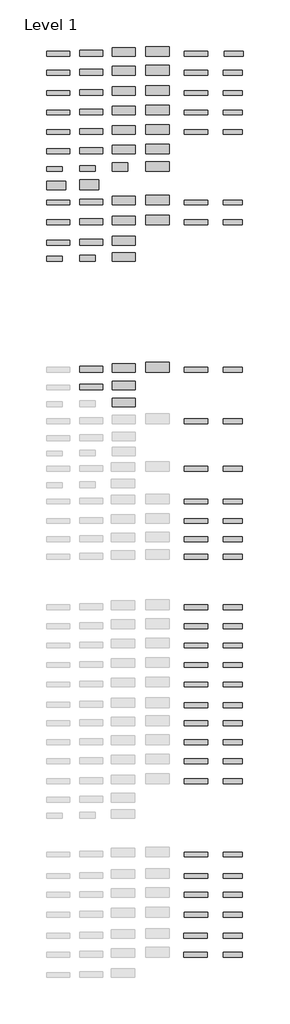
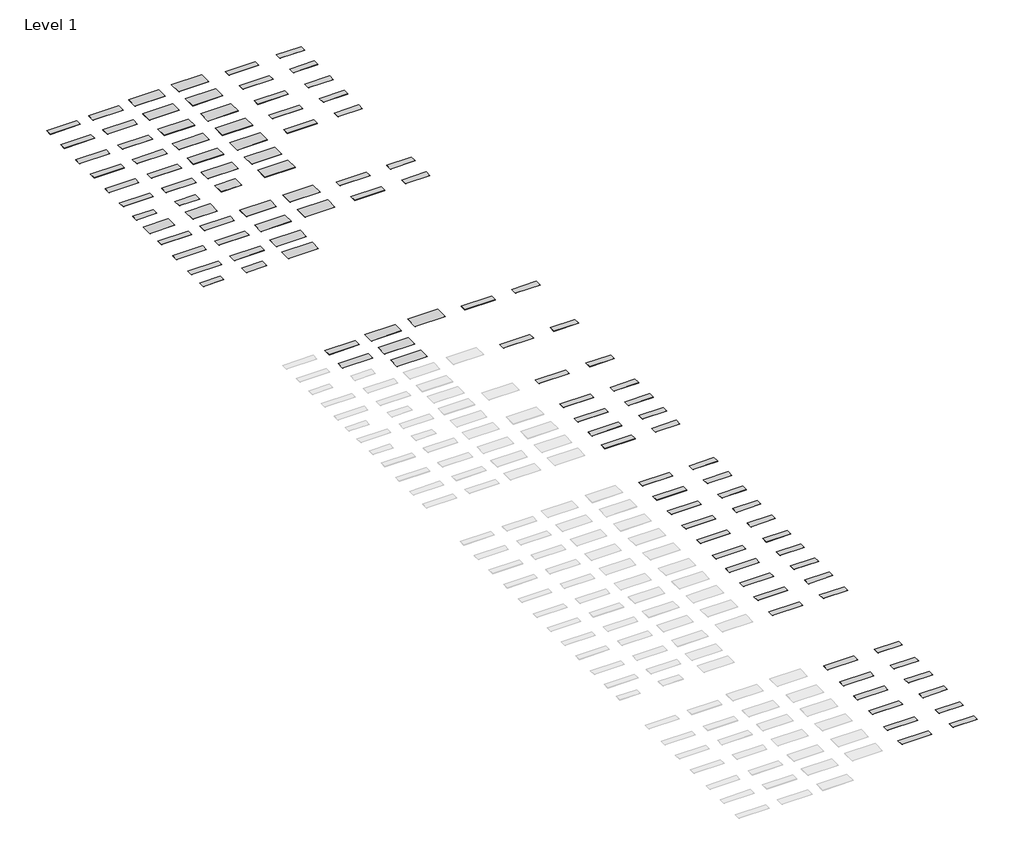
# One storey, part 2 of 2: 110 proxies.
"""IFC4 building model written with IfcOpenShell, lengths in millimetres."""

from ifc_helpers import new_model, si_unit, origin, place, context, project, spatial, transform, mapped, element, save
from components import s001_satin_white_12mm_760x3680mm_7f56e2ab, s001_satin_white_12mm_910x3680mm_ebb0e17e, s001_satin_white_12mm_1350x3680mm_c2ce3097, s001_satin_white_12mm_1520x3680mm_bc4f7f2a, s001_satin_white_20mm_760x3000mm_a6e596b7, s001_satin_white_6mm_760x2490mm_c0a7b58a, s001_satin_white_6mm_910x2490mm_29e5721c, s728_alpine_white_4mm_1350x3000mm_ca04285e, s728_alpine_white_4mm_1520x3000mm_6b61dcad, s728_alpine_white_6mm_1350x2490mm_099efddb

model = new_model("IFC4")

# Units and contexts
model_context = context("Model", 3, world=origin())
ifc_project = project(units=[si_unit("LENGTHUNIT", "METRE", prefix="MILLI")], contexts=[model_context])

# Site, building, storey
site = spatial("IfcSite", under=ifc_project)
building = spatial("IfcBuilding", under=site)
storey = spatial("IfcBuildingStorey", under=building, Name="Level 1", Elevation=0.0)

# Proxies
placement = place(None, origin())
s001_satin_white_12mm_760x3680mm_shape = s001_satin_white_12mm_760x3680mm_7f56e2ab(model_context)
element("IfcBuildingElementProxy", 1, Name="Kitchen_Counter-Tops_Indoor-Material_HI-MACS_Solids : S006_Artic-White_12mm_760x3680mm", ObjectType="Kitchen_Counter-Tops_Indoor-Material_HI-MACS_Solids : S006_Artic-White_12mm_760x3680mm", at=placement, inside=storey, context=model_context, shape_type="MappedRepresentation", body=[
    mapped(s001_satin_white_12mm_760x3680mm_shape, transform((-20811.8590579, -18180.8307829, 0.0), x_axis=(1.0, 0.0, 0.0), y_axis=(0.0, 1.0, 0.0), z_axis=(0.0, 0.0, 1.0))),
])
element("IfcBuildingElementProxy", 2, Name="Kitchen_Counter-Tops_Indoor-Material_HI-MACS_Solids : S118_Mink_12mm_760x3680mm", ObjectType="Kitchen_Counter-Tops_Indoor-Material_HI-MACS_Solids : S118_Mink_12mm_760x3680mm", at=placement, inside=storey, context=model_context, shape_type="MappedRepresentation", body=[
    mapped(s001_satin_white_12mm_760x3680mm_shape, transform((-20811.8590579, 5360.1795782, 0.0), x_axis=(1.0, 0.0, 0.0), y_axis=(0.0, 1.0, 0.0), z_axis=(0.0, 0.0, 1.0))),
])
element("IfcBuildingElementProxy", 3, Name="Kitchen_Counter-Tops_Indoor-Material_HI-MACS_Solids : S120_Cosmic-Blue_12mm_760x3680mm", ObjectType="Kitchen_Counter-Tops_Indoor-Material_HI-MACS_Solids : S120_Cosmic-Blue_12mm_760x3680mm", at=placement, inside=storey, context=model_context, shape_type="MappedRepresentation", body=[
    mapped(s001_satin_white_12mm_760x3680mm_shape, transform((-20811.8590579, -897.9391247, 0.0), x_axis=(1.0, 0.0, 0.0), y_axis=(0.0, 1.0, 0.0), z_axis=(0.0, 0.0, 1.0))),
])
s001_satin_white_12mm_910x3680mm_shape = s001_satin_white_12mm_910x3680mm_ebb0e17e(model_context)
element("IfcBuildingElementProxy", 4, Name="Kitchen_Counter-Tops_Indoor-Material_HI-MACS_Solids : S118_Mink_12mm_910x3680mm", ObjectType="Kitchen_Counter-Tops_Indoor-Material_HI-MACS_Solids : S118_Mink_12mm_910x3680mm", at=placement, inside=storey, context=model_context, shape_type="MappedRepresentation", body=[
    mapped(s001_satin_white_12mm_910x3680mm_shape, transform((-15611.8590579, 5435.1795782, 0.0), x_axis=(1.0, 0.0, 0.0), y_axis=(0.0, 1.0, 0.0), z_axis=(0.0, 0.0, 1.0))),
])
s001_satin_white_12mm_1350x3680mm_shape = s001_satin_white_12mm_1350x3680mm_c2ce3097(model_context)
element("IfcBuildingElementProxy", 5, Name="Kitchen_Counter-Tops_Indoor-Material_HI-MACS_Solids : S118_Mink_12mm_1350x3680mm", ObjectType="Kitchen_Counter-Tops_Indoor-Material_HI-MACS_Solids : S118_Mink_12mm_1350x3680mm", at=placement, inside=storey, context=model_context, shape_type="MappedRepresentation", body=[
    mapped(s001_satin_white_12mm_1350x3680mm_shape, transform((-10511.8590579, 5655.1795782, 0.0), x_axis=(1.0, 0.0, 0.0), y_axis=(0.0, 1.0, 0.0), z_axis=(0.0, 0.0, 1.0))),
])
s001_satin_white_12mm_1520x3680mm_shape = s001_satin_white_12mm_1520x3680mm_bc4f7f2a(model_context)
element("IfcBuildingElementProxy", 6, Name="Kitchen_Counter-Tops_Indoor-Material_HI-MACS_Solids : S118_Mink_12mm_1520x3680mm", ObjectType="Kitchen_Counter-Tops_Indoor-Material_HI-MACS_Solids : S118_Mink_12mm_1520x3680mm", at=placement, inside=storey, context=model_context, shape_type="MappedRepresentation", body=[
    mapped(s001_satin_white_12mm_1520x3680mm_shape, transform((-5211.8590579, 5740.1795782, 0.0), x_axis=(1.0, 0.0, 0.0), y_axis=(0.0, 1.0, 0.0), z_axis=(0.0, 0.0, 1.0))),
])
element("IfcBuildingElementProxy", 7, Name="Kitchen_Counter-Tops_Indoor-Material_HI-MACS_Solids : S118_Mink_20mm_760x3680mm", ObjectType="Kitchen_Counter-Tops_Indoor-Material_HI-MACS_Solids : S118_Mink_20mm_760x3680mm", at=placement, inside=storey, context=model_context, shape_type="MappedRepresentation", body=[
    mapped(s001_satin_white_12mm_760x3680mm_shape, transform((868.1409421, 5360.1795782, 0.0), x_axis=(1.0, 0.0, 0.0), y_axis=(0.0, 1.0, 0.0), z_axis=(0.0, 0.0, 1.0))),
])
element("IfcBuildingElementProxy", 8, Name="Kitchen_Counter-Tops_Indoor-Material_HI-MACS_Solids : S120_Cosmic-Blue_12mm_910x3680mm", ObjectType="Kitchen_Counter-Tops_Indoor-Material_HI-MACS_Solids : S120_Cosmic-Blue_12mm_910x3680mm", at=placement, inside=storey, context=model_context, shape_type="MappedRepresentation", body=[
    mapped(s001_satin_white_12mm_910x3680mm_shape, transform((-15611.8590579, -822.9391247, 0.0), x_axis=(1.0, 0.0, 0.0), y_axis=(0.0, 1.0, 0.0), z_axis=(0.0, 0.0, 1.0))),
])
element("IfcBuildingElementProxy", 9, Name="Kitchen_Counter-Tops_Indoor-Material_HI-MACS_Solids : S120_Cosmic-Blue_12mm_1350x3680mm", ObjectType="Kitchen_Counter-Tops_Indoor-Material_HI-MACS_Solids : S120_Cosmic-Blue_12mm_1350x3680mm", at=placement, inside=storey, context=model_context, shape_type="MappedRepresentation", body=[
    mapped(s001_satin_white_12mm_1350x3680mm_shape, transform((-10511.8590579, -602.9391247, 0.0), x_axis=(1.0, 0.0, 0.0), y_axis=(0.0, 1.0, 0.0), z_axis=(0.0, 0.0, 1.0))),
])
element("IfcBuildingElementProxy", 10, Name="Kitchen_Counter-Tops_Indoor-Material_HI-MACS_Solids : S120_Cosmic-Blue_12mm_1520x3680mm", ObjectType="Kitchen_Counter-Tops_Indoor-Material_HI-MACS_Solids : S120_Cosmic-Blue_12mm_1520x3680mm", at=placement, inside=storey, context=model_context, shape_type="MappedRepresentation", body=[
    mapped(s001_satin_white_12mm_1520x3680mm_shape, transform((-5211.8590579, -517.9391247, 0.0), x_axis=(1.0, 0.0, 0.0), y_axis=(0.0, 1.0, 0.0), z_axis=(0.0, 0.0, 1.0))),
])
element("IfcBuildingElementProxy", 11, Name="Kitchen_Counter-Tops_Indoor-Material_HI-MACS_Solids : S120_Cosmic-Blue_20mm_760x3680mm", ObjectType="Kitchen_Counter-Tops_Indoor-Material_HI-MACS_Solids : S120_Cosmic-Blue_20mm_760x3680mm", at=placement, inside=storey, context=model_context, shape_type="MappedRepresentation", body=[
    mapped(s001_satin_white_12mm_760x3680mm_shape, transform((868.1409421, -897.9391247, 0.0), x_axis=(1.0, 0.0, 0.0), y_axis=(0.0, 1.0, 0.0), z_axis=(0.0, 0.0, 1.0))),
])
element("IfcBuildingElementProxy", 12, Name="Kitchen_Counter-Tops_Indoor-Material_HI-MACS_Solids : S006_Artic-White_12mm_910x3680mm", ObjectType="Kitchen_Counter-Tops_Indoor-Material_HI-MACS_Solids : S006_Artic-White_12mm_910x3680mm", at=placement, inside=storey, context=model_context, shape_type="MappedRepresentation", body=[
    mapped(s001_satin_white_12mm_910x3680mm_shape, transform((-15611.8590579, -18105.8307829, 0.0), x_axis=(1.0, 0.0, 0.0), y_axis=(0.0, 1.0, 0.0), z_axis=(0.0, 0.0, 1.0))),
])
element("IfcBuildingElementProxy", 13, Name="Kitchen_Counter-Tops_Indoor-Material_HI-MACS_Solids : S006_Artic-White_12mm_1350x3680mm", ObjectType="Kitchen_Counter-Tops_Indoor-Material_HI-MACS_Solids : S006_Artic-White_12mm_1350x3680mm", at=placement, inside=storey, context=model_context, shape_type="MappedRepresentation", body=[
    mapped(s001_satin_white_12mm_1350x3680mm_shape, transform((-10511.8590579, -17885.8307829, 0.0), x_axis=(1.0, 0.0, 0.0), y_axis=(0.0, 1.0, 0.0), z_axis=(0.0, 0.0, 1.0))),
])
element("IfcBuildingElementProxy", 14, Name="Kitchen_Counter-Tops_Indoor-Material_HI-MACS_Solids : S006_Artic-White_12mm_1520x3680mm", ObjectType="Kitchen_Counter-Tops_Indoor-Material_HI-MACS_Solids : S006_Artic-White_12mm_1520x3680mm", at=placement, inside=storey, context=model_context, shape_type="MappedRepresentation", body=[
    mapped(s001_satin_white_12mm_1520x3680mm_shape, transform((-5211.8590579, -17800.8307829, 0.0), x_axis=(1.0, 0.0, 0.0), y_axis=(0.0, 1.0, 0.0), z_axis=(0.0, 0.0, 1.0))),
])
element("IfcBuildingElementProxy", 15, Name="Kitchen_Counter-Tops_Indoor-Material_HI-MACS_Solids : S006_Artic-White_20mm_760x3680mm", ObjectType="Kitchen_Counter-Tops_Indoor-Material_HI-MACS_Solids : S006_Artic-White_20mm_760x3680mm", at=placement, inside=storey, context=model_context, shape_type="MappedRepresentation", body=[
    mapped(s001_satin_white_12mm_760x3680mm_shape, transform((868.1409421, -18180.8307829, 0.0), x_axis=(1.0, 0.0, 0.0), y_axis=(0.0, 1.0, 0.0), z_axis=(0.0, 0.0, 1.0))),
])
s001_satin_white_20mm_760x3000mm_shape = s001_satin_white_20mm_760x3000mm_a6e596b7(model_context)
element("IfcBuildingElementProxy", 16, Name="Kitchen_Counter-Tops_Indoor-Material_HI-MACS_Solids : S006_Artic-White_20mm_760x3000mm", ObjectType="Kitchen_Counter-Tops_Indoor-Material_HI-MACS_Solids : S006_Artic-White_20mm_760x3000mm", at=placement, inside=storey, context=model_context, shape_type="MappedRepresentation", body=[
    mapped(s001_satin_white_20mm_760x3000mm_shape, transform((6668.1409421, -18180.8307829, 0.0), x_axis=(1.0, 0.0, 0.0), y_axis=(0.0, 1.0, 0.0), z_axis=(0.0, 0.0, 1.0))),
])
element("IfcBuildingElementProxy", 17, Name="Kitchen_Counter-Tops_Indoor-Material_HI-MACS_Solids : S006_Artic-White_9mm_760x3680mm", ObjectType="Kitchen_Counter-Tops_Indoor-Material_HI-MACS_Solids : S006_Artic-White_9mm_760x3680mm", at=placement, inside=storey, context=model_context, shape_type="MappedRepresentation", body=[
    mapped(s001_satin_white_12mm_760x3680mm_shape, transform((-20811.8590579, -21380.8307829, 0.0), x_axis=(1.0, 0.0, 0.0), y_axis=(0.0, 1.0, 0.0), z_axis=(0.0, 0.0, 1.0))),
])
element("IfcBuildingElementProxy", 18, Name="Kitchen_Counter-Tops_Indoor-Material_HI-MACS_Solids : S006_Artic-White_9mm_910x3680mm", ObjectType="Kitchen_Counter-Tops_Indoor-Material_HI-MACS_Solids : S006_Artic-White_9mm_910x3680mm", at=placement, inside=storey, context=model_context, shape_type="MappedRepresentation", body=[
    mapped(s001_satin_white_12mm_910x3680mm_shape, transform((-15611.8590579, -21305.8307829, 0.0), x_axis=(1.0, 0.0, 0.0), y_axis=(0.0, 1.0, 0.0), z_axis=(0.0, 0.0, 1.0))),
])
element("IfcBuildingElementProxy", 19, Name="Kitchen_Counter-Tops_Indoor-Material_HI-MACS_Solids : S006_Artic-White_9mm_1350x3680mm", ObjectType="Kitchen_Counter-Tops_Indoor-Material_HI-MACS_Solids : S006_Artic-White_9mm_1350x3680mm", at=placement, inside=storey, context=model_context, shape_type="MappedRepresentation", body=[
    mapped(s001_satin_white_12mm_1350x3680mm_shape, transform((-10511.8590579, -21085.8307829, 0.0), x_axis=(1.0, 0.0, 0.0), y_axis=(0.0, 1.0, 0.0), z_axis=(0.0, 0.0, 1.0))),
])
s001_satin_white_6mm_760x2490mm_shape = s001_satin_white_6mm_760x2490mm_c0a7b58a(model_context)
element("IfcBuildingElementProxy", 20, Name="Kitchen_Counter-Tops_Indoor-Material_HI-MACS_Solids : S006_Artic-White_6mm_760x2490mm", ObjectType="Kitchen_Counter-Tops_Indoor-Material_HI-MACS_Solids : S006_Artic-White_6mm_760x2490mm", at=placement, inside=storey, context=model_context, shape_type="MappedRepresentation", body=[
    mapped(s001_satin_white_6mm_760x2490mm_shape, transform((-21406.8590579, -23920.8307829, 0.0), x_axis=(1.0, 0.0, 0.0), y_axis=(0.0, 1.0, 0.0), z_axis=(0.0, 0.0, 1.0))),
])
s001_satin_white_6mm_910x2490mm_shape = s001_satin_white_6mm_910x2490mm_29e5721c(model_context)
element("IfcBuildingElementProxy", 21, Name="Kitchen_Counter-Tops_Indoor-Material_HI-MACS_Solids : S006_Artic-White_6mm_910x2490mm", ObjectType="Kitchen_Counter-Tops_Indoor-Material_HI-MACS_Solids : S006_Artic-White_6mm_910x2490mm", at=placement, inside=storey, context=model_context, shape_type="MappedRepresentation", body=[
    mapped(s001_satin_white_6mm_910x2490mm_shape, transform((-16206.8590579, -23845.8307829, 0.0), x_axis=(1.0, 0.0, 0.0), y_axis=(0.0, 1.0, 0.0), z_axis=(0.0, 0.0, 1.0))),
])
element("IfcBuildingElementProxy", 22, Name="Kitchen_Counter-Tops_Indoor-Material_HI-MACS_Solids : S006_Artic-White_6mm_1350x3680mm", ObjectType="Kitchen_Counter-Tops_Indoor-Material_HI-MACS_Solids : S006_Artic-White_6mm_1350x3680mm", at=placement, inside=storey, context=model_context, shape_type="MappedRepresentation", body=[
    mapped(s001_satin_white_12mm_1350x3680mm_shape, transform((-10511.8590579, -23625.8307829, 0.0), x_axis=(1.0, 0.0, 0.0), y_axis=(0.0, 1.0, 0.0), z_axis=(0.0, 0.0, 1.0))),
])
element("IfcBuildingElementProxy", 23, Name="Kitchen_Counter-Tops_Indoor-Material_HI-MACS_Solids : S102_Babylon-Beige_20mm_760x3680mm", ObjectType="Kitchen_Counter-Tops_Indoor-Material_HI-MACS_Solids : S102_Babylon-Beige_20mm_760x3680mm", at=placement, inside=storey, context=model_context, shape_type="MappedRepresentation", body=[
    mapped(s001_satin_white_12mm_760x3680mm_shape, transform((868.1409421, -68063.8627083, 0.0), x_axis=(1.0, 0.0, 0.0), y_axis=(0.0, 1.0, 0.0), z_axis=(0.0, 0.0, 1.0))),
])
element("IfcBuildingElementProxy", 24, Name="Kitchen_Counter-Tops_Indoor-Material_HI-MACS_Solids : S102_Babylon-Beige_20mm_760x3000mm", ObjectType="Kitchen_Counter-Tops_Indoor-Material_HI-MACS_Solids : S102_Babylon-Beige_20mm_760x3000mm", at=placement, inside=storey, context=model_context, shape_type="MappedRepresentation", body=[
    mapped(s001_satin_white_20mm_760x3000mm_shape, transform((6668.1409421, -68063.8627083, 0.0), x_axis=(1.0, 0.0, 0.0), y_axis=(0.0, 1.0, 0.0), z_axis=(0.0, 0.0, 1.0))),
])
element("IfcBuildingElementProxy", 25, Name="Kitchen_Counter-Tops_Indoor-Material_HI-MACS_Solids : S104_Toffee-Brown_20mm_760x3680mm", ObjectType="Kitchen_Counter-Tops_Indoor-Material_HI-MACS_Solids : S104_Toffee-Brown_20mm_760x3680mm", at=placement, inside=storey, context=model_context, shape_type="MappedRepresentation", body=[
    mapped(s001_satin_white_12mm_760x3680mm_shape, transform((868.1409421, -78724.1890533, 0.0), x_axis=(1.0, 0.0, 0.0), y_axis=(0.0, 1.0, 0.0), z_axis=(0.0, 0.0, 1.0))),
])
element("IfcBuildingElementProxy", 26, Name="Kitchen_Counter-Tops_Indoor-Material_HI-MACS_Solids : S104_Toffee-Brown_20mm_760x3000mm", ObjectType="Kitchen_Counter-Tops_Indoor-Material_HI-MACS_Solids : S104_Toffee-Brown_20mm_760x3000mm", at=placement, inside=storey, context=model_context, shape_type="MappedRepresentation", body=[
    mapped(s001_satin_white_20mm_760x3000mm_shape, transform((6668.1409421, -78724.1890533, 0.0), x_axis=(1.0, 0.0, 0.0), y_axis=(0.0, 1.0, 0.0), z_axis=(0.0, 0.0, 1.0))),
])
element("IfcBuildingElementProxy", 27, Name="Kitchen_Counter-Tops_Indoor-Material_HI-MACS_Solids : S108_Marta-Grey_20mm_760x3680mm", ObjectType="Kitchen_Counter-Tops_Indoor-Material_HI-MACS_Solids : S108_Marta-Grey_20mm_760x3680mm", at=placement, inside=storey, context=model_context, shape_type="MappedRepresentation", body=[
    mapped(s001_satin_white_12mm_760x3680mm_shape, transform((868.1409421, -81711.6390607, 0.0), x_axis=(1.0, 0.0, 0.0), y_axis=(0.0, 1.0, 0.0), z_axis=(0.0, 0.0, 1.0))),
])
element("IfcBuildingElementProxy", 28, Name="Kitchen_Counter-Tops_Indoor-Material_HI-MACS_Solids : S108_Marta-Grey_20mm_760x3000mm", ObjectType="Kitchen_Counter-Tops_Indoor-Material_HI-MACS_Solids : S108_Marta-Grey_20mm_760x3000mm", at=placement, inside=storey, context=model_context, shape_type="MappedRepresentation", body=[
    mapped(s001_satin_white_20mm_760x3000mm_shape, transform((6668.1409421, -81711.6390607, 0.0), x_axis=(1.0, 0.0, 0.0), y_axis=(0.0, 1.0, 0.0), z_axis=(0.0, 0.0, 1.0))),
])
element("IfcBuildingElementProxy", 29, Name="Kitchen_Counter-Tops_Indoor-Material_HI-MACS_Solids : S106_Lemon-Squash_20mm_760x3680mm", ObjectType="Kitchen_Counter-Tops_Indoor-Material_HI-MACS_Solids : S106_Lemon-Squash_20mm_760x3680mm", at=placement, inside=storey, context=model_context, shape_type="MappedRepresentation", body=[
    mapped(s001_satin_white_12mm_760x3680mm_shape, transform((868.1409421, -87827.4569194, 0.0), x_axis=(1.0, 0.0, 0.0), y_axis=(0.0, 1.0, 0.0), z_axis=(0.0, 0.0, 1.0))),
])
element("IfcBuildingElementProxy", 30, Name="Kitchen_Counter-Tops_Indoor-Material_HI-MACS_Solids : S106_Lemon-Squash_20mm_760x3000mm", ObjectType="Kitchen_Counter-Tops_Indoor-Material_HI-MACS_Solids : S106_Lemon-Squash_20mm_760x3000mm", at=placement, inside=storey, context=model_context, shape_type="MappedRepresentation", body=[
    mapped(s001_satin_white_20mm_760x3000mm_shape, transform((6668.1409421, -87827.4569194, 0.0), x_axis=(1.0, 0.0, 0.0), y_axis=(0.0, 1.0, 0.0), z_axis=(0.0, 0.0, 1.0))),
])
element("IfcBuildingElementProxy", 31, Name="Kitchen_Counter-Tops_Indoor-Material_HI-MACS_Solids : S025_Fiery-Red_20mm_760x3680mm", ObjectType="Kitchen_Counter-Tops_Indoor-Material_HI-MACS_Solids : S025_Fiery-Red_20mm_760x3680mm", at=placement, inside=storey, context=model_context, shape_type="MappedRepresentation", body=[
    mapped(s001_satin_white_12mm_760x3680mm_shape, transform((868.1409421, -96987.9035685, 0.0), x_axis=(1.0, 0.0, 0.0), y_axis=(0.0, 1.0, 0.0), z_axis=(0.0, 0.0, 1.0))),
])
element("IfcBuildingElementProxy", 32, Name="Kitchen_Counter-Tops_Indoor-Material_HI-MACS_Solids : S025_Fiery-Red_20mm_760x3000mm", ObjectType="Kitchen_Counter-Tops_Indoor-Material_HI-MACS_Solids : S025_Fiery-Red_20mm_760x3000mm", at=placement, inside=storey, context=model_context, shape_type="MappedRepresentation", body=[
    mapped(s001_satin_white_20mm_760x3000mm_shape, transform((6668.1409421, -96987.9035685, 0.0), x_axis=(1.0, 0.0, 0.0), y_axis=(0.0, 1.0, 0.0), z_axis=(0.0, 0.0, 1.0))),
])
element("IfcBuildingElementProxy", 33, Name="Kitchen_Counter-Tops_Indoor-Material_HI-MACS_Solids : S116_Festival-Pink_20mm_760x3680mm", ObjectType="Kitchen_Counter-Tops_Indoor-Material_HI-MACS_Solids : S116_Festival-Pink_20mm_760x3680mm", at=placement, inside=storey, context=model_context, shape_type="MappedRepresentation", body=[
    mapped(s001_satin_white_12mm_760x3680mm_shape, transform((868.1409421, -99964.5753354, 0.0), x_axis=(1.0, 0.0, 0.0), y_axis=(0.0, 1.0, 0.0), z_axis=(0.0, 0.0, 1.0))),
])
element("IfcBuildingElementProxy", 34, Name="Kitchen_Counter-Tops_Indoor-Material_HI-MACS_Solids : S116_Festival-Pink_20mm_760x3000mm", ObjectType="Kitchen_Counter-Tops_Indoor-Material_HI-MACS_Solids : S116_Festival-Pink_20mm_760x3000mm", at=placement, inside=storey, context=model_context, shape_type="MappedRepresentation", body=[
    mapped(s001_satin_white_20mm_760x3000mm_shape, transform((6668.1409421, -99964.5753354, 0.0), x_axis=(1.0, 0.0, 0.0), y_axis=(0.0, 1.0, 0.0), z_axis=(0.0, 0.0, 1.0))),
])
element("IfcBuildingElementProxy", 35, Name="Kitchen_Counter-Tops_Indoor-Material_HI-MACS_Solids : S115_Deep-Indigo_20mm_760x3680mm", ObjectType="Kitchen_Counter-Tops_Indoor-Material_HI-MACS_Solids : S115_Deep-Indigo_20mm_760x3680mm", at=placement, inside=storey, context=model_context, shape_type="MappedRepresentation", body=[
    mapped(s001_satin_white_12mm_760x3680mm_shape, transform((868.1409421, -123994.5445632, 0.0), x_axis=(1.0, 0.0, 0.0), y_axis=(0.0, 1.0, 0.0), z_axis=(0.0, 0.0, 1.0))),
])
element("IfcBuildingElementProxy", 36, Name="Kitchen_Counter-Tops_Indoor-Material_HI-MACS_Solids : S115_Deep-Indigo_20mm_760x3000mm", ObjectType="Kitchen_Counter-Tops_Indoor-Material_HI-MACS_Solids : S115_Deep-Indigo_20mm_760x3000mm", at=placement, inside=storey, context=model_context, shape_type="MappedRepresentation", body=[
    mapped(s001_satin_white_20mm_760x3000mm_shape, transform((6668.1409421, -123994.5445632, 0.0), x_axis=(1.0, 0.0, 0.0), y_axis=(0.0, 1.0, 0.0), z_axis=(0.0, 0.0, 1.0))),
])
element("IfcBuildingElementProxy", 37, Name="Kitchen_Counter-Tops_Indoor-Material_HI-MACS_Solids : S120_Cosmic-Blue_20mm_760x3000mm", ObjectType="Kitchen_Counter-Tops_Indoor-Material_HI-MACS_Solids : S120_Cosmic-Blue_20mm_760x3000mm", at=placement, inside=storey, context=model_context, shape_type="MappedRepresentation", body=[
    mapped(s001_satin_white_20mm_760x3000mm_shape, transform((6668.1409421, -897.9391247, 0.0), x_axis=(1.0, 0.0, 0.0), y_axis=(0.0, 1.0, 0.0), z_axis=(0.0, 0.0, 1.0))),
])
element("IfcBuildingElementProxy", 38, Name="Kitchen_Counter-Tops_Indoor-Material_HI-MACS_Solids : S118_Mink_20mm_760x3000mm", ObjectType="Kitchen_Counter-Tops_Indoor-Material_HI-MACS_Solids : S118_Mink_20mm_760x3000mm", at=placement, inside=storey, context=model_context, shape_type="MappedRepresentation", body=[
    mapped(s001_satin_white_20mm_760x3000mm_shape, transform((6668.1409421, 5360.1795782, 0.0), x_axis=(1.0, 0.0, 0.0), y_axis=(0.0, 1.0, 0.0), z_axis=(0.0, 0.0, 1.0))),
])
element("IfcBuildingElementProxy", 39, Name="Kitchen_Counter-Tops_Indoor-Material_HI-MACS_Solids : S001_Satin-White_20mm_760x3000mm", ObjectType="Kitchen_Counter-Tops_Indoor-Material_HI-MACS_Solids : S001_Satin-White_20mm_760x3000mm", at=placement, inside=storey, context=model_context, shape_type="MappedRepresentation", body=[
    mapped(s001_satin_white_20mm_760x3000mm_shape, transform((6668.1409421, -49472.1888204, 0.0), x_axis=(1.0, 0.0, 0.0), y_axis=(0.0, 1.0, 0.0), z_axis=(0.0, 0.0, 1.0))),
])
element("IfcBuildingElementProxy", 40, Name="Kitchen_Counter-Tops_Indoor-Material_HI-MACS_Solids : S001_Satin-White_20mm_760x3680mm", ObjectType="Kitchen_Counter-Tops_Indoor-Material_HI-MACS_Solids : S001_Satin-White_20mm_760x3680mm", at=placement, inside=storey, context=model_context, shape_type="MappedRepresentation", body=[
    mapped(s001_satin_white_12mm_760x3680mm_shape, transform((868.1409421, -49472.1888204, 0.0), x_axis=(1.0, 0.0, 0.0), y_axis=(0.0, 1.0, 0.0), z_axis=(0.0, 0.0, 1.0))),
])
element("IfcBuildingElementProxy", 41, Name="Kitchen_Counter-Tops_Indoor-Material_HI-MACS_Solids : S002_Almond_20mm_760x3000mm", ObjectType="Kitchen_Counter-Tops_Indoor-Material_HI-MACS_Solids : S002_Almond_20mm_760x3000mm", at=placement, inside=storey, context=model_context, shape_type="MappedRepresentation", body=[
    mapped(s001_satin_white_20mm_760x3000mm_shape, transform((6668.1409421, -65172.1888204, 0.0), x_axis=(1.0, 0.0, 0.0), y_axis=(0.0, 1.0, 0.0), z_axis=(0.0, 0.0, 1.0))),
])
element("IfcBuildingElementProxy", 42, Name="Kitchen_Counter-Tops_Indoor-Material_HI-MACS_Solids : S002_Almond_20mm_760x3680mm", ObjectType="Kitchen_Counter-Tops_Indoor-Material_HI-MACS_Solids : S002_Almond_20mm_760x3680mm", at=placement, inside=storey, context=model_context, shape_type="MappedRepresentation", body=[
    mapped(s001_satin_white_12mm_760x3680mm_shape, transform((868.1409421, -65172.1888204, 0.0), x_axis=(1.0, 0.0, 0.0), y_axis=(0.0, 1.0, 0.0), z_axis=(0.0, 0.0, 1.0))),
])
element("IfcBuildingElementProxy", 43, Name="Kitchen_Counter-Tops_Indoor-Material_HI-MACS_Solids : S005_Grey_20mm_760x3000mm", ObjectType="Kitchen_Counter-Tops_Indoor-Material_HI-MACS_Solids : S005_Grey_20mm_760x3000mm", at=placement, inside=storey, context=model_context, shape_type="MappedRepresentation", body=[
    mapped(s001_satin_white_20mm_760x3000mm_shape, transform((6668.1409421, -106108.3040816, 0.0), x_axis=(1.0, 0.0, 0.0), y_axis=(0.0, 1.0, 0.0), z_axis=(0.0, 0.0, 1.0))),
])
element("IfcBuildingElementProxy", 44, Name="Kitchen_Counter-Tops_Indoor-Material_HI-MACS_Solids : S005_Grey_20mm_760x3680mm", ObjectType="Kitchen_Counter-Tops_Indoor-Material_HI-MACS_Solids : S005_Grey_20mm_760x3680mm", at=placement, inside=storey, context=model_context, shape_type="MappedRepresentation", body=[
    mapped(s001_satin_white_12mm_760x3680mm_shape, transform((868.1409421, -106108.3040816, 0.0), x_axis=(1.0, 0.0, 0.0), y_axis=(0.0, 1.0, 0.0), z_axis=(0.0, 0.0, 1.0))),
])
element("IfcBuildingElementProxy", 45, Name="Kitchen_Counter-Tops_Indoor-Material_HI-MACS_Solids : S009_Cream_20mm_760x3000mm", ObjectType="Kitchen_Counter-Tops_Indoor-Material_HI-MACS_Solids : S009_Cream_20mm_760x3000mm", at=placement, inside=storey, context=model_context, shape_type="MappedRepresentation", body=[
    mapped(s001_satin_white_20mm_760x3000mm_shape, transform((6668.1409421, -56979.5477152, 0.0), x_axis=(1.0, 0.0, 0.0), y_axis=(0.0, 1.0, 0.0), z_axis=(0.0, 0.0, 1.0))),
])
element("IfcBuildingElementProxy", 46, Name="Kitchen_Counter-Tops_Indoor-Material_HI-MACS_Solids : S009_Cream_20mm_760x3680mm", ObjectType="Kitchen_Counter-Tops_Indoor-Material_HI-MACS_Solids : S009_Cream_20mm_760x3680mm", at=placement, inside=storey, context=model_context, shape_type="MappedRepresentation", body=[
    mapped(s001_satin_white_12mm_760x3680mm_shape, transform((868.1409421, -56979.5477152, 0.0), x_axis=(1.0, 0.0, 0.0), y_axis=(0.0, 1.0, 0.0), z_axis=(0.0, 0.0, 1.0))),
])
element("IfcBuildingElementProxy", 47, Name="Kitchen_Counter-Tops_Indoor-Material_HI-MACS_Solids : S022_Black_20mm_760x3000mm", ObjectType="Kitchen_Counter-Tops_Indoor-Material_HI-MACS_Solids : S022_Black_20mm_760x3000mm", at=placement, inside=storey, context=model_context, shape_type="MappedRepresentation", body=[
    mapped(s001_satin_white_20mm_760x3000mm_shape, transform((6668.1409421, -133406.0645662, 0.0), x_axis=(1.0, 0.0, 0.0), y_axis=(0.0, 1.0, 0.0), z_axis=(0.0, 0.0, 1.0))),
])
element("IfcBuildingElementProxy", 48, Name="Kitchen_Counter-Tops_Indoor-Material_HI-MACS_Solids : S022_Black_20mm_760x3680mm", ObjectType="Kitchen_Counter-Tops_Indoor-Material_HI-MACS_Solids : S022_Black_20mm_760x3680mm", at=placement, inside=storey, context=model_context, shape_type="MappedRepresentation", body=[
    mapped(s001_satin_white_12mm_760x3680mm_shape, transform((788.1409421, -133406.0645662, 0.0), x_axis=(1.0, 0.0, 0.0), y_axis=(0.0, 1.0, 0.0), z_axis=(0.0, 0.0, 1.0))),
])
element("IfcBuildingElementProxy", 49, Name="Kitchen_Counter-Tops_Indoor-Material_HI-MACS_Solids : S026_Banana_20mm_760x3000mm", ObjectType="Kitchen_Counter-Tops_Indoor-Material_HI-MACS_Solids : S026_Banana_20mm_760x3000mm", at=placement, inside=storey, context=model_context, shape_type="MappedRepresentation", body=[
    mapped(s001_satin_white_20mm_760x3000mm_shape, transform((6668.1409421, -90889.7667378, 0.0), x_axis=(1.0, 0.0, 0.0), y_axis=(0.0, 1.0, 0.0), z_axis=(0.0, 0.0, 1.0))),
])
element("IfcBuildingElementProxy", 50, Name="Kitchen_Counter-Tops_Indoor-Material_HI-MACS_Solids : S026_Banana_20mm_760x3680mm", ObjectType="Kitchen_Counter-Tops_Indoor-Material_HI-MACS_Solids : S026_Banana_20mm_760x3680mm", at=placement, inside=storey, context=model_context, shape_type="MappedRepresentation", body=[
    mapped(s001_satin_white_12mm_760x3680mm_shape, transform((868.1409421, -90889.7667378, 0.0), x_axis=(1.0, 0.0, 0.0), y_axis=(0.0, 1.0, 0.0), z_axis=(0.0, 0.0, 1.0))),
])
element("IfcBuildingElementProxy", 51, Name="Kitchen_Counter-Tops_Indoor-Material_HI-MACS_Solids : S027_Orange_20mm_760x3000mm", ObjectType="Kitchen_Counter-Tops_Indoor-Material_HI-MACS_Solids : S027_Orange_20mm_760x3000mm", at=placement, inside=storey, context=model_context, shape_type="MappedRepresentation", body=[
    mapped(s001_satin_white_20mm_760x3000mm_shape, transform((6668.1409421, -94148.5615786, 0.0), x_axis=(1.0, 0.0, 0.0), y_axis=(0.0, 1.0, 0.0), z_axis=(0.0, 0.0, 1.0))),
])
element("IfcBuildingElementProxy", 52, Name="Kitchen_Counter-Tops_Indoor-Material_HI-MACS_Solids : S027_Orange_20mm_760x3680mm", ObjectType="Kitchen_Counter-Tops_Indoor-Material_HI-MACS_Solids : S027_Orange_20mm_760x3680mm", at=placement, inside=storey, context=model_context, shape_type="MappedRepresentation", body=[
    mapped(s001_satin_white_12mm_760x3680mm_shape, transform((868.1409421, -94148.5615786, 0.0), x_axis=(1.0, 0.0, 0.0), y_axis=(0.0, 1.0, 0.0), z_axis=(0.0, 0.0, 1.0))),
])
element("IfcBuildingElementProxy", 53, Name="Kitchen_Counter-Tops_Indoor-Material_HI-MACS_Solids : S029_Ivory-White_12mm_1350x3680mm", ObjectType="Kitchen_Counter-Tops_Indoor-Material_HI-MACS_Solids : S029_Ivory-White_12mm_1350x3680mm", at=placement, inside=storey, context=model_context, shape_type="MappedRepresentation", body=[
    mapped(s001_satin_white_12mm_1350x3680mm_shape, transform((-10511.8590579, -41081.1039936, 0.0), x_axis=(1.0, 0.0, 0.0), y_axis=(0.0, 1.0, 0.0), z_axis=(0.0, 0.0, 1.0))),
])
element("IfcBuildingElementProxy", 54, Name="Kitchen_Counter-Tops_Indoor-Material_HI-MACS_Solids : S029_Ivory-White_12mm_1520x3680mm", ObjectType="Kitchen_Counter-Tops_Indoor-Material_HI-MACS_Solids : S029_Ivory-White_12mm_1520x3680mm", at=placement, inside=storey, context=model_context, shape_type="MappedRepresentation", body=[
    mapped(s001_satin_white_12mm_1520x3680mm_shape, transform((-5211.8590579, -40996.1039936, 0.0), x_axis=(1.0, 0.0, 0.0), y_axis=(0.0, 1.0, 0.0), z_axis=(0.0, 0.0, 1.0))),
])
element("IfcBuildingElementProxy", 55, Name="Kitchen_Counter-Tops_Indoor-Material_HI-MACS_Solids : S029_Ivory-White_12mm_910x3680mm", ObjectType="Kitchen_Counter-Tops_Indoor-Material_HI-MACS_Solids : S029_Ivory-White_12mm_910x3680mm", at=placement, inside=storey, context=model_context, shape_type="MappedRepresentation", body=[
    mapped(s001_satin_white_12mm_910x3680mm_shape, transform((-15611.8590579, -41301.1039936, 0.0), x_axis=(1.0, 0.0, 0.0), y_axis=(0.0, 1.0, 0.0), z_axis=(0.0, 0.0, 1.0))),
])
element("IfcBuildingElementProxy", 56, Name="Kitchen_Counter-Tops_Indoor-Material_HI-MACS_Solids : S029_Ivory-White_20mm_760x3000mm", ObjectType="Kitchen_Counter-Tops_Indoor-Material_HI-MACS_Solids : S029_Ivory-White_20mm_760x3000mm", at=placement, inside=storey, context=model_context, shape_type="MappedRepresentation", body=[
    mapped(s001_satin_white_20mm_760x3000mm_shape, transform((6668.1409421, -41376.1039936, 0.0), x_axis=(1.0, 0.0, 0.0), y_axis=(0.0, 1.0, 0.0), z_axis=(0.0, 0.0, 1.0))),
])
element("IfcBuildingElementProxy", 57, Name="Kitchen_Counter-Tops_Indoor-Material_HI-MACS_Solids : S029_Ivory-White_20mm_760x3680mm", ObjectType="Kitchen_Counter-Tops_Indoor-Material_HI-MACS_Solids : S029_Ivory-White_20mm_760x3680mm", at=placement, inside=storey, context=model_context, shape_type="MappedRepresentation", body=[
    mapped(s001_satin_white_12mm_760x3680mm_shape, transform((868.1409421, -41376.1039936, 0.0), x_axis=(1.0, 0.0, 0.0), y_axis=(0.0, 1.0, 0.0), z_axis=(0.0, 0.0, 1.0))),
])
element("IfcBuildingElementProxy", 58, Name="Kitchen_Counter-Tops_Indoor-Material_HI-MACS_Solids : S029_Ivory-White_6mm_1350x3680mm", ObjectType="Kitchen_Counter-Tops_Indoor-Material_HI-MACS_Solids : S029_Ivory-White_6mm_1350x3680mm", at=placement, inside=storey, context=model_context, shape_type="MappedRepresentation", body=[
    mapped(s001_satin_white_12mm_1350x3680mm_shape, transform((-10511.8590579, -46501.1039936, 0.0), x_axis=(1.0, 0.0, 0.0), y_axis=(0.0, 1.0, 0.0), z_axis=(0.0, 0.0, 1.0))),
])
element("IfcBuildingElementProxy", 59, Name="Kitchen_Counter-Tops_Indoor-Material_HI-MACS_Solids : S029_Ivory-White_9mm_1350x3680mm", ObjectType="Kitchen_Counter-Tops_Indoor-Material_HI-MACS_Solids : S029_Ivory-White_9mm_1350x3680mm", at=placement, inside=storey, context=model_context, shape_type="MappedRepresentation", body=[
    mapped(s001_satin_white_12mm_1350x3680mm_shape, transform((-10511.8590579, -43881.1039936, 0.0), x_axis=(1.0, 0.0, 0.0), y_axis=(0.0, 1.0, 0.0), z_axis=(0.0, 0.0, 1.0))),
])
element("IfcBuildingElementProxy", 60, Name="Kitchen_Counter-Tops_Indoor-Material_HI-MACS_Solids : S029_Ivory-White_9mm_910x3680mm", ObjectType="Kitchen_Counter-Tops_Indoor-Material_HI-MACS_Solids : S029_Ivory-White_9mm_910x3680mm", at=placement, inside=storey, context=model_context, shape_type="MappedRepresentation", body=[
    mapped(s001_satin_white_12mm_910x3680mm_shape, transform((-15611.8590579, -44101.1039936, 0.0), x_axis=(1.0, 0.0, 0.0), y_axis=(0.0, 1.0, 0.0), z_axis=(0.0, 0.0, 1.0))),
])
element("IfcBuildingElementProxy", 61, Name="Kitchen_Counter-Tops_Indoor-Material_HI-MACS_Solids : S034_Diamond-White_12mm_1350x3680mm", ObjectType="Kitchen_Counter-Tops_Indoor-Material_HI-MACS_Solids : S034_Diamond-White_12mm_1350x3680mm", at=placement, inside=storey, context=model_context, shape_type="MappedRepresentation", body=[
    mapped(s001_satin_white_12mm_1350x3680mm_shape, transform((-10511.8590579, -14771.0520875, 0.0), x_axis=(1.0, 0.0, 0.0), y_axis=(0.0, 1.0, 0.0), z_axis=(0.0, 0.0, 1.0))),
])
element("IfcBuildingElementProxy", 62, Name="Kitchen_Counter-Tops_Indoor-Material_HI-MACS_Solids : S034_Diamond-White_12mm_1520x3680mm", ObjectType="Kitchen_Counter-Tops_Indoor-Material_HI-MACS_Solids : S034_Diamond-White_12mm_1520x3680mm", at=placement, inside=storey, context=model_context, shape_type="MappedRepresentation", body=[
    mapped(s001_satin_white_12mm_1520x3680mm_shape, transform((-5211.8590579, -14686.0520875, 0.0), x_axis=(1.0, 0.0, 0.0), y_axis=(0.0, 1.0, 0.0), z_axis=(0.0, 0.0, 1.0))),
])
element("IfcBuildingElementProxy", 63, Name="Kitchen_Counter-Tops_Indoor-Material_HI-MACS_Solids : S034_Diamond-White_12mm_760x3680mm", ObjectType="Kitchen_Counter-Tops_Indoor-Material_HI-MACS_Solids : S034_Diamond-White_12mm_760x3680mm", at=placement, inside=storey, context=model_context, shape_type="MappedRepresentation", body=[
    mapped(s001_satin_white_12mm_760x3680mm_shape, transform((-20811.8590579, -15066.0520875, 0.0), x_axis=(1.0, 0.0, 0.0), y_axis=(0.0, 1.0, 0.0), z_axis=(0.0, 0.0, 1.0))),
])
element("IfcBuildingElementProxy", 64, Name="Kitchen_Counter-Tops_Indoor-Material_HI-MACS_Solids : S034_Diamond-White_12mm_910x3680mm", ObjectType="Kitchen_Counter-Tops_Indoor-Material_HI-MACS_Solids : S034_Diamond-White_12mm_910x3680mm", at=placement, inside=storey, context=model_context, shape_type="MappedRepresentation", body=[
    mapped(s001_satin_white_12mm_910x3680mm_shape, transform((-15611.8590579, -14991.0520875, 0.0), x_axis=(1.0, 0.0, 0.0), y_axis=(0.0, 1.0, 0.0), z_axis=(0.0, 0.0, 1.0))),
])
element("IfcBuildingElementProxy", 65, Name="Kitchen_Counter-Tops_Indoor-Material_HI-MACS_Solids : S034_Diamond-White_20mm_760x3000mm", ObjectType="Kitchen_Counter-Tops_Indoor-Material_HI-MACS_Solids : S034_Diamond-White_20mm_760x3000mm", at=placement, inside=storey, context=model_context, shape_type="MappedRepresentation", body=[
    mapped(s001_satin_white_20mm_760x3000mm_shape, transform((6668.1409421, -15066.0520875, 0.0), x_axis=(1.0, 0.0, 0.0), y_axis=(0.0, 1.0, 0.0), z_axis=(0.0, 0.0, 1.0))),
])
element("IfcBuildingElementProxy", 66, Name="Kitchen_Counter-Tops_Indoor-Material_HI-MACS_Solids : S034_Diamond-White_20mm_760x3680mm", ObjectType="Kitchen_Counter-Tops_Indoor-Material_HI-MACS_Solids : S034_Diamond-White_20mm_760x3680mm", at=placement, inside=storey, context=model_context, shape_type="MappedRepresentation", body=[
    mapped(s001_satin_white_12mm_760x3680mm_shape, transform((868.1409421, -15066.0520875, 0.0), x_axis=(1.0, 0.0, 0.0), y_axis=(0.0, 1.0, 0.0), z_axis=(0.0, 0.0, 1.0))),
])
element("IfcBuildingElementProxy", 67, Name="Kitchen_Counter-Tops_Indoor-Material_HI-MACS_Solids : S100_Coffee-Brown_20mm_760x3000mm", ObjectType="Kitchen_Counter-Tops_Indoor-Material_HI-MACS_Solids : S100_Coffee-Brown_20mm_760x3000mm", at=placement, inside=storey, context=model_context, shape_type="MappedRepresentation", body=[
    mapped(s001_satin_white_20mm_760x3000mm_shape, transform((6668.1409421, -130438.3976089, 0.0), x_axis=(1.0, 0.0, 0.0), y_axis=(0.0, 1.0, 0.0), z_axis=(0.0, 0.0, 1.0))),
])
element("IfcBuildingElementProxy", 68, Name="Kitchen_Counter-Tops_Indoor-Material_HI-MACS_Solids : S100_Coffee-Brown_20mm_760x3680mm", ObjectType="Kitchen_Counter-Tops_Indoor-Material_HI-MACS_Solids : S100_Coffee-Brown_20mm_760x3680mm", at=placement, inside=storey, context=model_context, shape_type="MappedRepresentation", body=[
    mapped(s001_satin_white_12mm_760x3680mm_shape, transform((788.1409421, -130438.3976089, 0.0), x_axis=(1.0, 0.0, 0.0), y_axis=(0.0, 1.0, 0.0), z_axis=(0.0, 0.0, 1.0))),
])
element("IfcBuildingElementProxy", 69, Name="Kitchen_Counter-Tops_Indoor-Material_HI-MACS_Solids : S103_Concrete-Grey_20mm_760x3000mm", ObjectType="Kitchen_Counter-Tops_Indoor-Material_HI-MACS_Solids : S103_Concrete-Grey_20mm_760x3000mm", at=placement, inside=storey, context=model_context, shape_type="MappedRepresentation", body=[
    mapped(s001_satin_white_20mm_760x3000mm_shape, transform((6668.1409421, -70807.5925932, 0.0), x_axis=(1.0, 0.0, 0.0), y_axis=(0.0, 1.0, 0.0), z_axis=(0.0, 0.0, 1.0))),
])
element("IfcBuildingElementProxy", 70, Name="Kitchen_Counter-Tops_Indoor-Material_HI-MACS_Solids : S103_Concrete-Grey_20mm_760x3680mm", ObjectType="Kitchen_Counter-Tops_Indoor-Material_HI-MACS_Solids : S103_Concrete-Grey_20mm_760x3680mm", at=placement, inside=storey, context=model_context, shape_type="MappedRepresentation", body=[
    mapped(s001_satin_white_12mm_760x3680mm_shape, transform((868.1409421, -70807.5925932, 0.0), x_axis=(1.0, 0.0, 0.0), y_axis=(0.0, 1.0, 0.0), z_axis=(0.0, 0.0, 1.0))),
])
element("IfcBuildingElementProxy", 71, Name="Kitchen_Counter-Tops_Indoor-Material_HI-MACS_Solids : S109_Steel-Grey_20mm_760x3000mm", ObjectType="Kitchen_Counter-Tops_Indoor-Material_HI-MACS_Solids : S109_Steel-Grey_20mm_760x3000mm", at=placement, inside=storey, context=model_context, shape_type="MappedRepresentation", body=[
    mapped(s001_satin_white_20mm_760x3000mm_shape, transform((6668.1409421, -102971.6313068, 0.0), x_axis=(1.0, 0.0, 0.0), y_axis=(0.0, 1.0, 0.0), z_axis=(0.0, 0.0, 1.0))),
])
element("IfcBuildingElementProxy", 72, Name="Kitchen_Counter-Tops_Indoor-Material_HI-MACS_Solids : S109_Steel-Grey_20mm_760x3680mm", ObjectType="Kitchen_Counter-Tops_Indoor-Material_HI-MACS_Solids : S109_Steel-Grey_20mm_760x3680mm", at=placement, inside=storey, context=model_context, shape_type="MappedRepresentation", body=[
    mapped(s001_satin_white_12mm_760x3680mm_shape, transform((868.1409421, -102971.6313068, 0.0), x_axis=(1.0, 0.0, 0.0), y_axis=(0.0, 1.0, 0.0), z_axis=(0.0, 0.0, 1.0))),
])
element("IfcBuildingElementProxy", 73, Name="Kitchen_Counter-Tops_Indoor-Material_HI-MACS_Solids : S111_Dark-Night_20mm_760x3000mm", ObjectType="Kitchen_Counter-Tops_Indoor-Material_HI-MACS_Solids : S111_Dark-Night_20mm_760x3000mm", at=placement, inside=storey, context=model_context, shape_type="MappedRepresentation", body=[
    mapped(s001_satin_white_20mm_760x3000mm_shape, transform((6668.1409421, -127100.9567316, 0.0), x_axis=(1.0, 0.0, 0.0), y_axis=(0.0, 1.0, 0.0), z_axis=(0.0, 0.0, 1.0))),
])
element("IfcBuildingElementProxy", 74, Name="Kitchen_Counter-Tops_Indoor-Material_HI-MACS_Solids : S111_Dark-Night_20mm_760x3680mm", ObjectType="Kitchen_Counter-Tops_Indoor-Material_HI-MACS_Solids : S111_Dark-Night_20mm_760x3680mm", at=placement, inside=storey, context=model_context, shape_type="MappedRepresentation", body=[
    mapped(s001_satin_white_12mm_760x3680mm_shape, transform((868.1409421, -127100.9567316, 0.0), x_axis=(1.0, 0.0, 0.0), y_axis=(0.0, 1.0, 0.0), z_axis=(0.0, 0.0, 1.0))),
])
element("IfcBuildingElementProxy", 75, Name="Kitchen_Counter-Tops_Indoor-Material_HI-MACS_Solids : S117_Midnight-Grey_20mm_760x3000mm", ObjectType="Kitchen_Counter-Tops_Indoor-Material_HI-MACS_Solids : S117_Midnight-Grey_20mm_760x3000mm", at=placement, inside=storey, context=model_context, shape_type="MappedRepresentation", body=[
    mapped(s001_satin_white_20mm_760x3000mm_shape, transform((6668.1409421, -117630.6880003, 0.0), x_axis=(1.0, 0.0, 0.0), y_axis=(0.0, 1.0, 0.0), z_axis=(0.0, 0.0, 1.0))),
])
element("IfcBuildingElementProxy", 76, Name="Kitchen_Counter-Tops_Indoor-Material_HI-MACS_Solids : S117_Midnight-Grey_20mm_760x3680mm", ObjectType="Kitchen_Counter-Tops_Indoor-Material_HI-MACS_Solids : S117_Midnight-Grey_20mm_760x3680mm", at=placement, inside=storey, context=model_context, shape_type="MappedRepresentation", body=[
    mapped(s001_satin_white_12mm_760x3680mm_shape, transform((868.1409421, -117630.6880003, 0.0), x_axis=(1.0, 0.0, 0.0), y_axis=(0.0, 1.0, 0.0), z_axis=(0.0, 0.0, 1.0))),
])
element("IfcBuildingElementProxy", 77, Name="Kitchen_Counter-Tops_Indoor-Material_HI-MACS_Solids : S119_Evergreen_12mm_1350x3680mm", ObjectType="Kitchen_Counter-Tops_Indoor-Material_HI-MACS_Solids : S119_Evergreen_12mm_1350x3680mm", at=placement, inside=storey, context=model_context, shape_type="MappedRepresentation", body=[
    mapped(s001_satin_white_12mm_1350x3680mm_shape, transform((-10511.8590579, 2456.1357111, 0.0), x_axis=(1.0, 0.0, 0.0), y_axis=(0.0, 1.0, 0.0), z_axis=(0.0, 0.0, 1.0))),
])
element("IfcBuildingElementProxy", 78, Name="Kitchen_Counter-Tops_Indoor-Material_HI-MACS_Solids : S119_Evergreen_12mm_1520x3680mm", ObjectType="Kitchen_Counter-Tops_Indoor-Material_HI-MACS_Solids : S119_Evergreen_12mm_1520x3680mm", at=placement, inside=storey, context=model_context, shape_type="MappedRepresentation", body=[
    mapped(s001_satin_white_12mm_1520x3680mm_shape, transform((-5211.8590579, 2541.1357111, 0.0), x_axis=(1.0, 0.0, 0.0), y_axis=(0.0, 1.0, 0.0), z_axis=(0.0, 0.0, 1.0))),
])
element("IfcBuildingElementProxy", 79, Name="Kitchen_Counter-Tops_Indoor-Material_HI-MACS_Solids : S119_Evergreen_12mm_760x3680mm", ObjectType="Kitchen_Counter-Tops_Indoor-Material_HI-MACS_Solids : S119_Evergreen_12mm_760x3680mm", at=placement, inside=storey, context=model_context, shape_type="MappedRepresentation", body=[
    mapped(s001_satin_white_12mm_760x3680mm_shape, transform((-20811.8590579, 2161.1357111, 0.0), x_axis=(1.0, 0.0, 0.0), y_axis=(0.0, 1.0, 0.0), z_axis=(0.0, 0.0, 1.0))),
])
element("IfcBuildingElementProxy", 80, Name="Kitchen_Counter-Tops_Indoor-Material_HI-MACS_Solids : S119_Evergreen_12mm_910x3680mm", ObjectType="Kitchen_Counter-Tops_Indoor-Material_HI-MACS_Solids : S119_Evergreen_12mm_910x3680mm", at=placement, inside=storey, context=model_context, shape_type="MappedRepresentation", body=[
    mapped(s001_satin_white_12mm_910x3680mm_shape, transform((-15611.8590579, 2236.1357111, 0.0), x_axis=(1.0, 0.0, 0.0), y_axis=(0.0, 1.0, 0.0), z_axis=(0.0, 0.0, 1.0))),
])
element("IfcBuildingElementProxy", 81, Name="Kitchen_Counter-Tops_Indoor-Material_HI-MACS_Solids : S119_Evergreen_20mm_760x3000mm", ObjectType="Kitchen_Counter-Tops_Indoor-Material_HI-MACS_Solids : S119_Evergreen_20mm_760x3000mm", at=placement, inside=storey, context=model_context, shape_type="MappedRepresentation", body=[
    mapped(s001_satin_white_20mm_760x3000mm_shape, transform((6668.1409421, 2161.1357111, 0.0), x_axis=(1.0, 0.0, 0.0), y_axis=(0.0, 1.0, 0.0), z_axis=(0.0, 0.0, 1.0))),
])
element("IfcBuildingElementProxy", 82, Name="Kitchen_Counter-Tops_Indoor-Material_HI-MACS_Solids : S119_Evergreen_20mm_760x3680mm", ObjectType="Kitchen_Counter-Tops_Indoor-Material_HI-MACS_Solids : S119_Evergreen_20mm_760x3680mm", at=placement, inside=storey, context=model_context, shape_type="MappedRepresentation", body=[
    mapped(s001_satin_white_12mm_760x3680mm_shape, transform((868.1409421, 2161.1357111, 0.0), x_axis=(1.0, 0.0, 0.0), y_axis=(0.0, 1.0, 0.0), z_axis=(0.0, 0.0, 1.0))),
])
element("IfcBuildingElementProxy", 83, Name="Kitchen_Counter-Tops_Indoor-Material_HI-MACS_Solids : S121_Suede_12mm_1350x3680mm", ObjectType="Kitchen_Counter-Tops_Indoor-Material_HI-MACS_Solids : S121_Suede_12mm_1350x3680mm", at=placement, inside=storey, context=model_context, shape_type="MappedRepresentation", body=[
    mapped(s001_satin_white_12mm_1350x3680mm_shape, transform((-10511.8590579, 8622.8111796, 0.0), x_axis=(1.0, 0.0, 0.0), y_axis=(0.0, 1.0, 0.0), z_axis=(0.0, 0.0, 1.0))),
])
element("IfcBuildingElementProxy", 84, Name="Kitchen_Counter-Tops_Indoor-Material_HI-MACS_Solids : S121_Suede_12mm_1520x3680mm", ObjectType="Kitchen_Counter-Tops_Indoor-Material_HI-MACS_Solids : S121_Suede_12mm_1520x3680mm", at=placement, inside=storey, context=model_context, shape_type="MappedRepresentation", body=[
    mapped(s001_satin_white_12mm_1520x3680mm_shape, transform((-5211.8590579, 8707.8111796, 0.0), x_axis=(1.0, 0.0, 0.0), y_axis=(0.0, 1.0, 0.0), z_axis=(0.0, 0.0, 1.0))),
])
element("IfcBuildingElementProxy", 85, Name="Kitchen_Counter-Tops_Indoor-Material_HI-MACS_Solids : S121_Suede_12mm_760x3680mm", ObjectType="Kitchen_Counter-Tops_Indoor-Material_HI-MACS_Solids : S121_Suede_12mm_760x3680mm", at=placement, inside=storey, context=model_context, shape_type="MappedRepresentation", body=[
    mapped(s001_satin_white_12mm_760x3680mm_shape, transform((-20811.8590579, 8327.8111796, 0.0), x_axis=(1.0, 0.0, 0.0), y_axis=(0.0, 1.0, 0.0), z_axis=(0.0, 0.0, 1.0))),
])
element("IfcBuildingElementProxy", 86, Name="Kitchen_Counter-Tops_Indoor-Material_HI-MACS_Solids : S121_Suede_12mm_910x3680mm", ObjectType="Kitchen_Counter-Tops_Indoor-Material_HI-MACS_Solids : S121_Suede_12mm_910x3680mm", at=placement, inside=storey, context=model_context, shape_type="MappedRepresentation", body=[
    mapped(s001_satin_white_12mm_910x3680mm_shape, transform((-15611.8590579, 8402.8111796, 0.0), x_axis=(1.0, 0.0, 0.0), y_axis=(0.0, 1.0, 0.0), z_axis=(0.0, 0.0, 1.0))),
])
element("IfcBuildingElementProxy", 87, Name="Kitchen_Counter-Tops_Indoor-Material_HI-MACS_Solids : S121_Suede_20mm_760x3000mm", ObjectType="Kitchen_Counter-Tops_Indoor-Material_HI-MACS_Solids : S121_Suede_20mm_760x3000mm", at=placement, inside=storey, context=model_context, shape_type="MappedRepresentation", body=[
    mapped(s001_satin_white_20mm_760x3000mm_shape, transform((6768.1409421, 8327.8111796, 0.0), x_axis=(1.0, 0.0, 0.0), y_axis=(0.0, 1.0, 0.0), z_axis=(0.0, 0.0, 1.0))),
])
element("IfcBuildingElementProxy", 88, Name="Kitchen_Counter-Tops_Indoor-Material_HI-MACS_Solids : S121_Suede_20mm_760x3680mm", ObjectType="Kitchen_Counter-Tops_Indoor-Material_HI-MACS_Solids : S121_Suede_20mm_760x3680mm", at=placement, inside=storey, context=model_context, shape_type="MappedRepresentation", body=[
    mapped(s001_satin_white_12mm_760x3680mm_shape, transform((868.1409421, 8327.8111796, 0.0), x_axis=(1.0, 0.0, 0.0), y_axis=(0.0, 1.0, 0.0), z_axis=(0.0, 0.0, 1.0))),
])
element("IfcBuildingElementProxy", 89, Name="Kitchen_Counter-Tops_Indoor-Material_HI-MACS_Solids : S201_Nougat-Cream_20mm_760x3000mm", ObjectType="Kitchen_Counter-Tops_Indoor-Material_HI-MACS_Solids : S201_Nougat-Cream_20mm_760x3000mm", at=placement, inside=storey, context=model_context, shape_type="MappedRepresentation", body=[
    mapped(s001_satin_white_20mm_760x3000mm_shape, transform((6668.1409421, -62104.4438173, 0.0), x_axis=(1.0, 0.0, 0.0), y_axis=(0.0, 1.0, 0.0), z_axis=(0.0, 0.0, 1.0))),
])
element("IfcBuildingElementProxy", 90, Name="Kitchen_Counter-Tops_Indoor-Material_HI-MACS_Solids : S201_Nougat-Cream_20mm_760x3680mm", ObjectType="Kitchen_Counter-Tops_Indoor-Material_HI-MACS_Solids : S201_Nougat-Cream_20mm_760x3680mm", at=placement, inside=storey, context=model_context, shape_type="MappedRepresentation", body=[
    mapped(s001_satin_white_12mm_760x3680mm_shape, transform((868.1409421, -62104.4438173, 0.0), x_axis=(1.0, 0.0, 0.0), y_axis=(0.0, 1.0, 0.0), z_axis=(0.0, 0.0, 1.0))),
])
element("IfcBuildingElementProxy", 91, Name="Kitchen_Counter-Tops_Indoor-Material_HI-MACS_Solids : S203_Sky-Blue_20mm_760x3000mm", ObjectType="Kitchen_Counter-Tops_Indoor-Material_HI-MACS_Solids : S203_Sky-Blue_20mm_760x3000mm", at=placement, inside=storey, context=model_context, shape_type="MappedRepresentation", body=[
    mapped(s001_satin_white_20mm_760x3000mm_shape, transform((6668.1409421, -121021.6306624, 0.0), x_axis=(1.0, 0.0, 0.0), y_axis=(0.0, 1.0, 0.0), z_axis=(0.0, 0.0, 1.0))),
])
element("IfcBuildingElementProxy", 92, Name="Kitchen_Counter-Tops_Indoor-Material_HI-MACS_Solids : S203_Sky-Blue_20mm_760x3680mm", ObjectType="Kitchen_Counter-Tops_Indoor-Material_HI-MACS_Solids : S203_Sky-Blue_20mm_760x3680mm", at=placement, inside=storey, context=model_context, shape_type="MappedRepresentation", body=[
    mapped(s001_satin_white_12mm_760x3680mm_shape, transform((868.1409421, -121021.6306624, 0.0), x_axis=(1.0, 0.0, 0.0), y_axis=(0.0, 1.0, 0.0), z_axis=(0.0, 0.0, 1.0))),
])
element("IfcBuildingElementProxy", 93, Name="Kitchen_Counter-Tops_Indoor-Material_HI-MACS_Solids : S212_Light-Green_20mm_760x3000mm", ObjectType="Kitchen_Counter-Tops_Indoor-Material_HI-MACS_Solids : S212_Light-Green_20mm_760x3000mm", at=placement, inside=storey, context=model_context, shape_type="MappedRepresentation", body=[
    mapped(s001_satin_white_20mm_760x3000mm_shape, transform((6668.1409421, -84764.9101429, 0.0), x_axis=(1.0, 0.0, 0.0), y_axis=(0.0, 1.0, 0.0), z_axis=(0.0, 0.0, 1.0))),
])
element("IfcBuildingElementProxy", 94, Name="Kitchen_Counter-Tops_Indoor-Material_HI-MACS_Solids : S212_Light-Green_20mm_760x3680mm", ObjectType="Kitchen_Counter-Tops_Indoor-Material_HI-MACS_Solids : S212_Light-Green_20mm_760x3680mm", at=placement, inside=storey, context=model_context, shape_type="MappedRepresentation", body=[
    mapped(s001_satin_white_12mm_760x3680mm_shape, transform((868.1409421, -84764.9101429, 0.0), x_axis=(1.0, 0.0, 0.0), y_axis=(0.0, 1.0, 0.0), z_axis=(0.0, 0.0, 1.0))),
])
element("IfcBuildingElementProxy", 95, Name="Kitchen_Counter-Tops_Indoor-Material_HI-MACS_Solids : S728_Alpine-White_12mm_1350x3680mm", ObjectType="Kitchen_Counter-Tops_Indoor-Material_HI-MACS_Solids : S728_Alpine-White_12mm_1350x3680mm", at=placement, inside=storey, context=model_context, shape_type="MappedRepresentation", body=[
    mapped(s001_satin_white_12mm_1350x3680mm_shape, transform((-10511.8590579, -3687.1369774, 0.0), x_axis=(1.0, 0.0, 0.0), y_axis=(0.0, 1.0, 0.0), z_axis=(0.0, 0.0, 1.0))),
])
element("IfcBuildingElementProxy", 96, Name="Kitchen_Counter-Tops_Indoor-Material_HI-MACS_Solids : S728_Alpine-White_12mm_1520x3680mm", ObjectType="Kitchen_Counter-Tops_Indoor-Material_HI-MACS_Solids : S728_Alpine-White_12mm_1520x3680mm", at=placement, inside=storey, context=model_context, shape_type="MappedRepresentation", body=[
    mapped(s001_satin_white_12mm_1520x3680mm_shape, transform((-5211.8590579, -3602.1369774, 0.0), x_axis=(1.0, 0.0, 0.0), y_axis=(0.0, 1.0, 0.0), z_axis=(0.0, 0.0, 1.0))),
])
element("IfcBuildingElementProxy", 97, Name="Kitchen_Counter-Tops_Indoor-Material_HI-MACS_Solids : S728_Alpine-White_12mm_760x3680mm", ObjectType="Kitchen_Counter-Tops_Indoor-Material_HI-MACS_Solids : S728_Alpine-White_12mm_760x3680mm", at=placement, inside=storey, context=model_context, shape_type="MappedRepresentation", body=[
    mapped(s001_satin_white_12mm_760x3680mm_shape, transform((-20811.8590579, -3982.1369774, 0.0), x_axis=(1.0, 0.0, 0.0), y_axis=(0.0, 1.0, 0.0), z_axis=(0.0, 0.0, 1.0))),
])
element("IfcBuildingElementProxy", 98, Name="Kitchen_Counter-Tops_Indoor-Material_HI-MACS_Solids : S728_Alpine-White_12mm_910x3680mm", ObjectType="Kitchen_Counter-Tops_Indoor-Material_HI-MACS_Solids : S728_Alpine-White_12mm_910x3680mm", at=placement, inside=storey, context=model_context, shape_type="MappedRepresentation", body=[
    mapped(s001_satin_white_12mm_910x3680mm_shape, transform((-15611.8590579, -3907.1369774, 0.0), x_axis=(1.0, 0.0, 0.0), y_axis=(0.0, 1.0, 0.0), z_axis=(0.0, 0.0, 1.0))),
])
element("IfcBuildingElementProxy", 99, Name="Kitchen_Counter-Tops_Indoor-Material_HI-MACS_Solids : S728_Alpine-White_20mm_760x3000mm", ObjectType="Kitchen_Counter-Tops_Indoor-Material_HI-MACS_Solids : S728_Alpine-White_20mm_760x3000mm", at=placement, inside=storey, context=model_context, shape_type="MappedRepresentation", body=[
    mapped(s001_satin_white_20mm_760x3000mm_shape, transform((6668.1409421, -3982.1369774, 0.0), x_axis=(1.0, 0.0, 0.0), y_axis=(0.0, 1.0, 0.0), z_axis=(0.0, 0.0, 1.0))),
])
element("IfcBuildingElementProxy", 100, Name="Kitchen_Counter-Tops_Indoor-Material_HI-MACS_Solids : S728_Alpine-White_20mm_760x3680mm", ObjectType="Kitchen_Counter-Tops_Indoor-Material_HI-MACS_Solids : S728_Alpine-White_20mm_760x3680mm", at=placement, inside=storey, context=model_context, shape_type="MappedRepresentation", body=[
    mapped(s001_satin_white_12mm_760x3680mm_shape, transform((868.1409421, -3982.1369774, 0.0), x_axis=(1.0, 0.0, 0.0), y_axis=(0.0, 1.0, 0.0), z_axis=(0.0, 0.0, 1.0))),
])
s728_alpine_white_4mm_1350x3000mm_shape = s728_alpine_white_4mm_1350x3000mm_ca04285e(model_context)
element("IfcBuildingElementProxy", 101, Name="Kitchen_Counter-Tops_Indoor-Material_HI-MACS_Solids : S728_Alpine-White_4mm_1350x3000mm", ObjectType="Kitchen_Counter-Tops_Indoor-Material_HI-MACS_Solids : S728_Alpine-White_4mm_1350x3000mm", at=placement, inside=storey, context=model_context, shape_type="MappedRepresentation", body=[
    mapped(s728_alpine_white_4mm_1350x3000mm_shape, transform((-21151.8590579, -12362.1369774, 0.0), x_axis=(1.0, 0.0, 0.0), y_axis=(0.0, 1.0, 0.0), z_axis=(0.0, 0.0, 1.0))),
])
s728_alpine_white_4mm_1520x3000mm_shape = s728_alpine_white_4mm_1520x3000mm_6b61dcad(model_context)
element("IfcBuildingElementProxy", 102, Name="Kitchen_Counter-Tops_Indoor-Material_HI-MACS_Solids : S728_Alpine-White_4mm_1520x3000mm", ObjectType="Kitchen_Counter-Tops_Indoor-Material_HI-MACS_Solids : S728_Alpine-White_4mm_1520x3000mm", at=placement, inside=storey, context=model_context, shape_type="MappedRepresentation", body=[
    mapped(s728_alpine_white_4mm_1520x3000mm_shape, transform((-15951.8590579, -12277.1369774, 0.0), x_axis=(1.0, 0.0, 0.0), y_axis=(0.0, 1.0, 0.0), z_axis=(0.0, 0.0, 1.0))),
])
s728_alpine_white_6mm_1350x2490mm_shape = s728_alpine_white_6mm_1350x2490mm_099efddb(model_context)
element("IfcBuildingElementProxy", 103, Name="Kitchen_Counter-Tops_Indoor-Material_HI-MACS_Solids : S728_Alpine-White_6mm_1350x2490mm", ObjectType="Kitchen_Counter-Tops_Indoor-Material_HI-MACS_Solids : S728_Alpine-White_6mm_1350x2490mm", at=placement, inside=storey, context=model_context, shape_type="MappedRepresentation", body=[
    mapped(s728_alpine_white_6mm_1350x2490mm_shape, transform((-11106.8590579, -9507.1369774, 0.0), x_axis=(1.0, 0.0, 0.0), y_axis=(0.0, 1.0, 0.0), z_axis=(0.0, 0.0, 1.0))),
])
element("IfcBuildingElementProxy", 104, Name="Kitchen_Counter-Tops_Indoor-Material_HI-MACS_Solids : S728_Alpine-White_6mm_1520x3680mm", ObjectType="Kitchen_Counter-Tops_Indoor-Material_HI-MACS_Solids : S728_Alpine-White_6mm_1520x3680mm", at=placement, inside=storey, context=model_context, shape_type="MappedRepresentation", body=[
    mapped(s001_satin_white_12mm_1520x3680mm_shape, transform((-5211.8590579, -9422.1369774, 0.0), x_axis=(1.0, 0.0, 0.0), y_axis=(0.0, 1.0, 0.0), z_axis=(0.0, 0.0, 1.0))),
])
element("IfcBuildingElementProxy", 105, Name="Kitchen_Counter-Tops_Indoor-Material_HI-MACS_Solids : S728_Alpine-White_6mm_760x2490mm", ObjectType="Kitchen_Counter-Tops_Indoor-Material_HI-MACS_Solids : S728_Alpine-White_6mm_760x2490mm", at=placement, inside=storey, context=model_context, shape_type="MappedRepresentation", body=[
    mapped(s001_satin_white_6mm_760x2490mm_shape, transform((-21406.8590579, -9802.1369774, 0.0), x_axis=(1.0, 0.0, 0.0), y_axis=(0.0, 1.0, 0.0), z_axis=(0.0, 0.0, 1.0))),
])
element("IfcBuildingElementProxy", 106, Name="Kitchen_Counter-Tops_Indoor-Material_HI-MACS_Solids : S728_Alpine-White_6mm_910x2490mm", ObjectType="Kitchen_Counter-Tops_Indoor-Material_HI-MACS_Solids : S728_Alpine-White_6mm_910x2490mm", at=placement, inside=storey, context=model_context, shape_type="MappedRepresentation", body=[
    mapped(s001_satin_white_6mm_910x2490mm_shape, transform((-16206.8590579, -9727.1369774, 0.0), x_axis=(1.0, 0.0, 0.0), y_axis=(0.0, 1.0, 0.0), z_axis=(0.0, 0.0, 1.0))),
])
element("IfcBuildingElementProxy", 107, Name="Kitchen_Counter-Tops_Indoor-Material_HI-MACS_Solids : S728_Alpine-White_9mm_1350x3680mm", ObjectType="Kitchen_Counter-Tops_Indoor-Material_HI-MACS_Solids : S728_Alpine-White_9mm_1350x3680mm", at=placement, inside=storey, context=model_context, shape_type="MappedRepresentation", body=[
    mapped(s001_satin_white_12mm_1350x3680mm_shape, transform((-10511.8590579, -6727.1369774, 0.0), x_axis=(1.0, 0.0, 0.0), y_axis=(0.0, 1.0, 0.0), z_axis=(0.0, 0.0, 1.0))),
])
element("IfcBuildingElementProxy", 108, Name="Kitchen_Counter-Tops_Indoor-Material_HI-MACS_Solids : S728_Alpine-White_9mm_1520x3680mm", ObjectType="Kitchen_Counter-Tops_Indoor-Material_HI-MACS_Solids : S728_Alpine-White_9mm_1520x3680mm", at=placement, inside=storey, context=model_context, shape_type="MappedRepresentation", body=[
    mapped(s001_satin_white_12mm_1520x3680mm_shape, transform((-5211.8590579, -6642.1369774, 0.0), x_axis=(1.0, 0.0, 0.0), y_axis=(0.0, 1.0, 0.0), z_axis=(0.0, 0.0, 1.0))),
])
element("IfcBuildingElementProxy", 109, Name="Kitchen_Counter-Tops_Indoor-Material_HI-MACS_Solids : S728_Alpine-White_9mm_760x3680mm", ObjectType="Kitchen_Counter-Tops_Indoor-Material_HI-MACS_Solids : S728_Alpine-White_9mm_760x3680mm", at=placement, inside=storey, context=model_context, shape_type="MappedRepresentation", body=[
    mapped(s001_satin_white_12mm_760x3680mm_shape, transform((-20811.8590579, -7022.1369774, 0.0), x_axis=(1.0, 0.0, 0.0), y_axis=(0.0, 1.0, 0.0), z_axis=(0.0, 0.0, 1.0))),
])
element("IfcBuildingElementProxy", 110, Name="Kitchen_Counter-Tops_Indoor-Material_HI-MACS_Solids : S728_Alpine-White_9mm_910x3680mm", ObjectType="Kitchen_Counter-Tops_Indoor-Material_HI-MACS_Solids : S728_Alpine-White_9mm_910x3680mm", at=placement, inside=storey, context=model_context, shape_type="MappedRepresentation", body=[
    mapped(s001_satin_white_12mm_910x3680mm_shape, transform((-15611.8590579, -6947.1369774, 0.0), x_axis=(1.0, 0.0, 0.0), y_axis=(0.0, 1.0, 0.0), z_axis=(0.0, 0.0, 1.0))),
])

save(model, "model.ifc")
